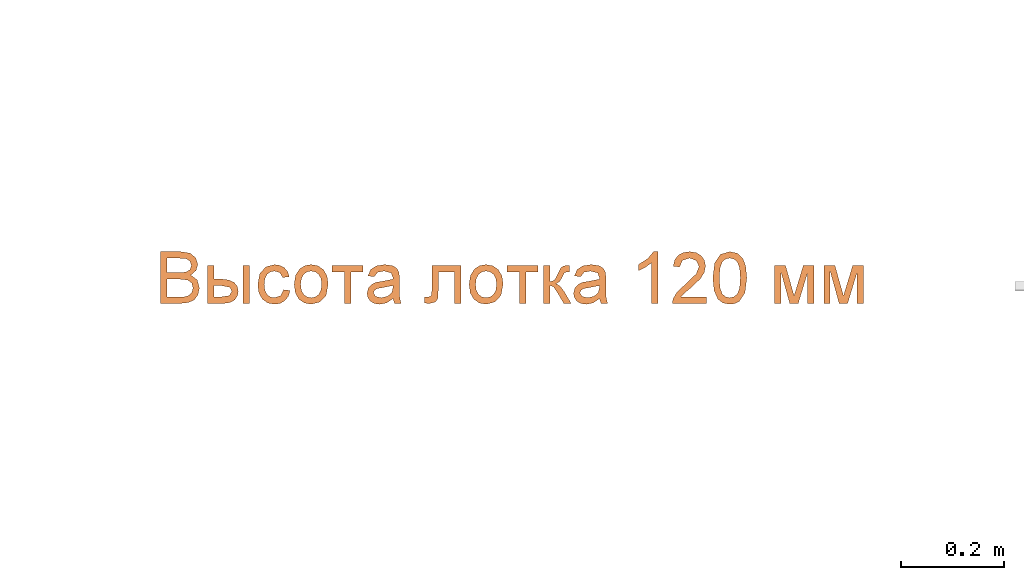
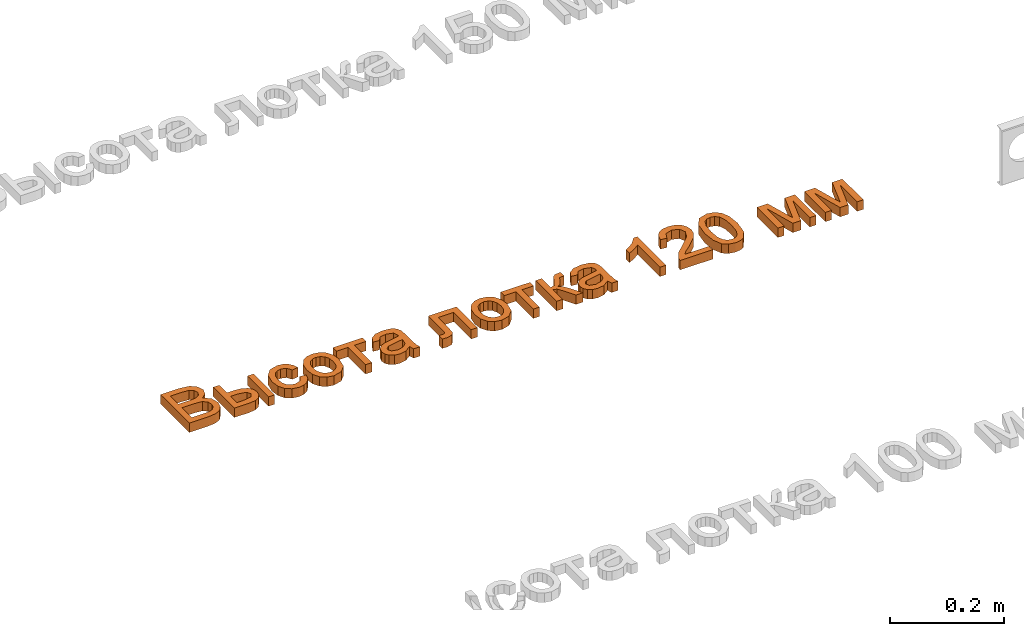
# One storey, part 12 of 71: 1 proxy.
"""IFC2X3 building model written with IfcOpenShell, lengths in millimetres."""

from ifc_helpers import new_model, entity, si_unit, converted_unit, derived_unit, direction, frame, frame_2d, origin, place, context, subcontext, project, spatial, polyline, rectangle, outline, extrude, element, save


model = new_model("IFC2X3")

# Units and contexts
model_context = context("Model", 3, precision=0.01, world=origin(), true_north=direction((6.12303176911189e-17, 1.0)))
body_context = subcontext(model_context, "Body", "Model", "MODEL_VIEW")
ifc_project = project(units=[si_unit("LENGTHUNIT", "METRE", prefix="MILLI"), si_unit("AREAUNIT", "SQUARE_METRE"), si_unit("VOLUMEUNIT", "CUBIC_METRE"), converted_unit("PLANEANGLEUNIT", "DEGREE", entity("IfcRatioMeasure", 0.0174532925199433), si_unit("PLANEANGLEUNIT", "RADIAN"), dimensions=[0, 0, 0, 0, 0, 0, 0]), si_unit("MASSUNIT", "GRAM", prefix="KILO"), derived_unit("MASSDENSITYUNIT", [(si_unit("MASSUNIT", "GRAM", prefix="KILO"), 1), (si_unit("LENGTHUNIT", "METRE"), -3)]), si_unit("TIMEUNIT", "SECOND"), si_unit("FREQUENCYUNIT", "HERTZ"), si_unit("THERMODYNAMICTEMPERATUREUNIT", "DEGREE_CELSIUS"), derived_unit("THERMALTRANSMITTANCEUNIT", [(si_unit("MASSUNIT", "GRAM", prefix="KILO"), 1), (si_unit("THERMODYNAMICTEMPERATUREUNIT", "KELVIN"), -1), (si_unit("TIMEUNIT", "SECOND"), -3)]), derived_unit("VOLUMETRICFLOWRATEUNIT", [(si_unit("LENGTHUNIT", "METRE"), 3), (si_unit("TIMEUNIT", "SECOND"), -1)]), si_unit("ELECTRICCURRENTUNIT", "AMPERE"), si_unit("ELECTRICVOLTAGEUNIT", "VOLT"), si_unit("POWERUNIT", "WATT"), si_unit("FORCEUNIT", "NEWTON", prefix="KILO"), si_unit("ILLUMINANCEUNIT", "LUX"), si_unit("LUMINOUSFLUXUNIT", "LUMEN"), si_unit("LUMINOUSINTENSITYUNIT", "CANDELA"), derived_unit("USERDEFINED", [(si_unit("MASSUNIT", "GRAM", prefix="KILO"), -1), (si_unit("LENGTHUNIT", "METRE"), -2), (si_unit("TIMEUNIT", "SECOND"), 3), (si_unit("LUMINOUSFLUXUNIT", "LUMEN"), 1)]), derived_unit("LINEARVELOCITYUNIT", [(si_unit("LENGTHUNIT", "METRE"), 1), (si_unit("TIMEUNIT", "SECOND"), -1)]), si_unit("PRESSUREUNIT", "PASCAL"), derived_unit("USERDEFINED", [(si_unit("LENGTHUNIT", "METRE"), -2), (si_unit("MASSUNIT", "GRAM", prefix="KILO"), 1), (si_unit("TIMEUNIT", "SECOND"), -2)])], contexts=[model_context])

# Site, building, storey
site_placement = place(None, origin())
site = spatial("IfcSite", under=ifc_project, at=site_placement, Name="Default", CompositionType="ELEMENT")
building_placement = place(site_placement, origin())
building = spatial("IfcBuilding", under=site, at=building_placement, Name="Наименование здания", CompositionType="ELEMENT")
storey_placement = place(building_placement, origin())
storey = spatial("IfcBuildingStorey", under=building, at=storey_placement, Name="Этаж 01", CompositionType="ELEMENT", Elevation=0.0)

# Proxy
proxy_placement = place(storey_placement, origin())
element("IfcBuildingElementProxy", 1, at=proxy_placement, inside=storey, Name="Текст модели:100 мм Arial", ObjectType="Текст модели:100 мм Arial", context=body_context, shape_type="SweptSolid", body=[
    extrude(outline(polyline([(-52.8068326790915, -48.6909338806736), (-14.7678343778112, -48.6909338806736), (1.33313427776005, -46.9618885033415), (12.2592295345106, -41.860591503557), (19.5800812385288, -32.2466086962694), (22.5353999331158, -18.7453394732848), (18.2066551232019, -3.12261741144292), (5.83355735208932, 6.24611073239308), (16.0238886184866, 15.1365922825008), (19.3961402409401, 26.8720279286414), (15.3862264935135, 39.7233722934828), (4.30071570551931, 48.810057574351), (-14.4735287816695, 51.7653762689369), (-52.8068326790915, 51.7653762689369), (-52.8068326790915, -48.6909338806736)]), holes=[polyline([(-40.2497939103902, 10.9550002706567), (-40.2497939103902, 39.208337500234), (-19.0597909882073, 39.208337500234), (-2.92203413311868, 37.8962250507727), (4.31297843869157, 33.0524454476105), (6.83910147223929, 24.8609396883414), (4.12903744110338, 16.6816966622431), (-3.92757825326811, 12.0341207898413), (-17.3184828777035, 10.9550002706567), (-40.2497939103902, 10.9550002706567)]), polyline([(-40.2497939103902, -36.1338951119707), (-40.2497939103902, -1.60203849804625), (-15.7243275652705, -1.60203849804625), (-0.211970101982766, -3.2820329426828), (7.57486546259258, -9.10683119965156), (9.97836116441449, -18.8679668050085), (7.93048472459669, -27.3292526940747), (2.70656039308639, -32.9087962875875), (-5.17837703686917, -35.6433857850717), (-14.4980542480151, -36.1338951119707), (-40.2497939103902, -36.1338951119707)])]), frame((4191.86628439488, -23151.704624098, 0.0)), (0.0, 0.0, 1.0), 20.0),
    extrude(outline(polyline([(-42.3988715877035, -34.5139341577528), (31.3737311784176, -34.5139341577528), (31.3737311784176, -3.73447389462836), (29.6538828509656, 9.31613988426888), (24.4943378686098, 18.2526066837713), (16.9129030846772, 23.4121516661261), (7.92738535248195, 25.1319999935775), (-1.94104916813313, 23.081057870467), (-9.42438208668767, 16.9282315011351), (-14.1424686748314, 6.98622058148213), (-15.7151642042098, -6.43227519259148), (-15.7151642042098, -21.956895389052), (-42.3988715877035, -21.956895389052), (-42.3988715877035, -34.5139341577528)]), holes=[polyline([(18.8166924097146, -21.956895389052), (-3.15812543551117, -21.956895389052), (-3.15812543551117, -7.41329384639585), (0.226388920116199, 8.88387853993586), (7.95191081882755, 12.5749612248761), (16.1802047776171, 7.59629155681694), (18.8166924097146, -9.05650009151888), (18.8166924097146, -21.956895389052)])]), frame((4264.61191694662, -23169.0218268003, 0.0), z_axis=(0.0, 0.0, 1.0), x_axis=(0.0, -1.0, 0.0)), (0.0, 0.0, 1.0), 20.0),
    extrude(outline(polyline([(0.267683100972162, -20.7200562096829), (-4.02278247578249, -32.6253015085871), (7.51957889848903, -34.5647704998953), (18.0242916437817, -32.524098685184), (26.8500141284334, -26.8719753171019), (33.3554047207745, -17.9770896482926), (37.2076783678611, -4.95154901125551), (35.3403176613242, 7.71415747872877), (27.6846262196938, 19.1676933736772), (14.1719076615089, 28.5567222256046), (-6.16200624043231, 34.5864889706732), (-23.4110955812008, 30.2307841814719), (-35.1302422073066, 17.0254849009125), (-38.5714296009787, 6.87231136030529), (-38.3156698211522, -2.77330902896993), (-34.4593562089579, -11.5597521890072), (-27.0988821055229, -19.1353940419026), (-20.0099089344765, -8.6525785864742), (-25.7552259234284, 0.801697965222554), (-23.9806627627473, 11.2483121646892), (-18.9208808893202, 17.7794646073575), (-11.853830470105, 21.4126833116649), (-2.81100512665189, 21.5312059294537), (8.17610151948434, 17.5182701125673), (18.0468481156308, 10.9639331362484), (23.3470531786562, 3.65828147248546), (24.6053297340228, -4.07586677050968), (22.3502908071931, -11.9156934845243), (13.5558525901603, -20.7200562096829), (0.267683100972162, -20.7200562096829)])), frame((4359.29348811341, -23164.084759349, 0.0), z_axis=(0.0, 0.0, -1.0), x_axis=(-0.453109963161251, -0.891454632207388, 0.0)), (0.0, 0.0, -1.0), 20.0),
    extrude(outline(polyline([(-2.34029740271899, -31.6984909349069), (14.2731811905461, -31.6984909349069), (27.1869525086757, -26.5873672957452), (35.9909592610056, -17.1811275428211), (40.275144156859, -4.29577920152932), (38.1491713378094, 13.1690451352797), (27.2514955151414, 26.648536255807), (5.67797919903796, 33.7446283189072), (-10.1280544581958, 33.6081083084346), (-22.8059382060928, 28.3900569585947), (-31.6389568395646, 18.9754531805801), (-35.910395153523, 6.24927588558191), (-35.5406401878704, -5.97109031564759), (-30.8535887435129, -16.7835237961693), (-19.5870121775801, -26.5692340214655), (-2.34029740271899, -31.6984909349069)]), holes=[polyline([(-0.642949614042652, -19.2566729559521), (-11.6948097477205, -16.259966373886), (-19.0989004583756, -10.8341828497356), (-22.9822632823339, -3.67356758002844), (-23.4719397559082, 4.52763423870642), (-20.7783225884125, 12.2046648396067), (-15.0781786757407, 18.0357050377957), (-6.56600936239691, 21.286328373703), (4.5636840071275, 21.2221083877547), (15.8675929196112, 18.1905150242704), (23.3961896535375, 12.747498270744), (27.3267847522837, 5.59272509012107), (27.8366887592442, -2.57413755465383), (25.1317228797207, -10.3331599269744), (19.4311586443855, -16.1672368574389), (10.8134498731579, -19.3753979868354), (-0.642949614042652, -19.2566729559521)])]), frame((4429.76838821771, -23161.4814092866, 0.0), z_axis=(0.0, 0.0, 1.0), x_axis=(0.137105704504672, -0.990556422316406, 0.0)), (0.0, 0.0, 1.0), 20.0),
    extrude(outline(polyline([(-24.7216700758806, -29.8229670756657), (-12.1646313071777, -29.8229670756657), (-12.1646313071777, -6.27851938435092), (49.0509326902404, -6.27851938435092), (49.0509326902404, 6.27851938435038), (-12.1646313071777, 6.27851938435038), (-12.1646313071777, 29.8229670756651), (-24.7216700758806, 29.8229670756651), (-24.7216700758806, -29.8229670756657)])), frame((4501.64394616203, -23151.3446252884, 0.0), z_axis=(0.0, 0.0, 1.0), x_axis=(0.0, -1.0, 0.0)), (0.0, 0.0, 1.0), 20.0),
    extrude(outline(polyline([(32.0508237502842, 7.88266535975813), (41.9780345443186, 7.88266535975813), (45.9489188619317, 19.7953183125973), (35.1414436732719, 20.7608946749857), (14.2438893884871, 27.0545912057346), (-0.577126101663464, 31.9949297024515), (-11.1945882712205, 34.8877809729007), (-20.497470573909, 33.9299602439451), (-28.5323068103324, 27.5470739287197), (-35.4619652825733, 13.8157249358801), (-38.3044049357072, -2.69989645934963), (-34.9462156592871, -15.3493345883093), (-25.030638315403, -24.3807697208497), (-19.5706723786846, -12.9644773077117), (-25.7868125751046, -4.50695904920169), (-24.0611841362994, 8.30922519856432), (-16.2279943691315, 20.3304570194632), (-6.33956174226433, 20.679460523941), (-3.7104020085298, 19.7255176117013), (-6.50243004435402, -2.30048133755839), (-8.14662433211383, -13.2049019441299), (-7.01817966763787, -22.8490321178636), (-2.17478658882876, -31.1204151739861), (6.48825595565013, -36.5416029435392), (15.0010331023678, -37.7020395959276), (22.949587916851, -35.3200906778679), (29.6378522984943, -29.3899394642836), (34.3697581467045, -19.9057692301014), (36.2737661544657, -6.36055543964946), (32.0508237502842, 7.88266535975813)]), holes=[polyline([(8.22551784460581, 15.8244339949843), (11.5759514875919, 14.6300664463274), (20.1614376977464, 9.67421668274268), (24.4696920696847, -0.396473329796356), (23.3024692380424, -13.39879277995), (17.2491973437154, -22.9498553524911), (9.62153186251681, -24.3497471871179), (5.58084684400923, -21.1932043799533), (3.98706417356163, -15.5044472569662), (5.47226797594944, -4.61166010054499), (8.22551784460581, 15.8244339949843)])]), frame((4571.92970417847, -23163.0644153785, 0.0), z_axis=(0.0, 0.0, 1.0), x_axis=(0.316227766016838, -0.948683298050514, 0.0)), (0.0, 0.0, 1.0), 20.0),
    extrude(outline(polyline([(-49.3689973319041, 12.5447760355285), (-49.3689973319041, -43.9618984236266), (24.3300290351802, -43.9618984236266), (24.3300290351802, -31.4048596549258), (-36.8119585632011, -31.4048596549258), (-36.8119585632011, -0.0122627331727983), (-1.61791435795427, -0.0122627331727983), (14.6179443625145, 0.833865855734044), (21.4728122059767, 5.48144172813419), (24.403605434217, 16.4688506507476), (23.7659433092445, 26.6714446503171), (11.8465666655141, 26.6714446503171), (11.8465666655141, 21.0551128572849), (11.0740144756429, 15.3774673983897), (8.62146784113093, 13.1088617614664), (-2.32915288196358, 12.5447760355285), (-49.3689973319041, 12.5447760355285)])), frame((4677.43022619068, -23175.9919525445, 0.0), z_axis=(0.0, 0.0, -1.0), x_axis=(0.0, -1.0, 0.0)), (0.0, 0.0, -1.0), 20.0),
    extrude(outline(polyline([(-2.34029740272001, -31.6984909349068), (14.2731811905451, -31.6984909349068), (27.1869525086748, -26.5873672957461), (35.9909592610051, -17.1811275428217), (40.2751441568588, -4.29577920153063), (38.1491713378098, 13.1690451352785), (27.2514955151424, 26.6485362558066), (5.67797919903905, 33.744628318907), (-10.1280544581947, 33.6081083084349), (-22.8059382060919, 28.3900569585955), (-31.638956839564, 18.9754531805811), (-35.9103951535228, 6.24927588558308), (-35.5406401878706, -5.97109031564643), (-30.8535887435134, -16.7835237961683), (-19.5870121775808, -26.5692340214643), (-2.34029740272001, -31.6984909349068)]), holes=[polyline([(-0.642949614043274, -19.2566729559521), (-11.694809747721, -16.2599663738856), (-19.098900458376, -10.834182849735), (-22.982263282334, -3.6735675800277), (-23.4719397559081, 4.52763423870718), (-20.778322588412, 12.2046648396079), (-15.0781786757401, 18.0357050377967), (-6.56600936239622, 21.2863283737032), (4.56368400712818, 21.2221083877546), (15.8675929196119, 18.1905150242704), (23.396189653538, 12.7474982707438), (27.3267847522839, 5.59272509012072), (27.8366887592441, -2.57413755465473), (25.1317228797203, -10.3331599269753), (19.431158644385, -16.1672368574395), (10.8134498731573, -19.3753979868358), (-0.642949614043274, -19.2566729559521)])]), frame((4768.80843497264, -23161.4814092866, 0.0), z_axis=(0.0, 0.0, 1.0), x_axis=(0.137105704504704, -0.990556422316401, 0.0)), (0.0, 0.0, 1.0), 20.0),
    extrude(outline(polyline([(-24.7216700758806, -29.8229670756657), (-12.1646313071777, -29.8229670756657), (-12.1646313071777, -6.27851938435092), (49.0509326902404, -6.27851938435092), (49.0509326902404, 6.27851938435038), (-12.1646313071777, 6.27851938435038), (-12.1646313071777, 29.8229670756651), (-24.7216700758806, 29.8229670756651), (-24.7216700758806, -29.8229670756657)])), frame((4840.68399291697, -23151.3446252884, 0.0), z_axis=(0.0, 0.0, 1.0), x_axis=(0.0, -1.0, 0.0)), (0.0, 0.0, 1.0), 20.0),
    extrude(outline(polyline([(-30.3295712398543, -29.5353037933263), (43.4430315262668, -29.5353037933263), (43.4430315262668, -16.9782650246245), (8.91117491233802, -16.9782650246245), (11.2288314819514, -10.2337617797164), (20.8060260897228, -3.61188586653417), (43.4430315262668, 9.55828956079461), (43.4430315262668, 23.8321109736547), (20.3155167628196, 10.3921554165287), (10.0209522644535, 2.61758258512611), (5.13425309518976, -5.30414304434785), (0.756457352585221, 1.79597946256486), (-8.18307513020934, 6.86048826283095), (-16.4481572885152, 11.1769703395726), (-17.7725324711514, 17.3083369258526), (-17.6989560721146, 20.6928512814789), (-30.3295712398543, 20.6928512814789), (-30.3295712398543, 18.289355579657), (-29.3730780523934, 9.10456843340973), (-25.6819953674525, 4.05232236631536), (-14.3389671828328, -1.67437402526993), (-1.19331722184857, -8.56603006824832), (1.06302568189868, -16.9782650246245), (-30.3295712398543, -16.9782650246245), (-30.3295712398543, -29.5353037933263)])), frame((4911.02967270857, -23156.9525264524, 0.0), z_axis=(0.0, 0.0, 1.0), x_axis=(0.0, -1.0, 0.0)), (0.0, 0.0, 1.0), 20.0),
    extrude(rectangle(XDim=73.7726027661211, YDim=12.5570387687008, at=frame_2d((2.16715534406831e-12, 0.0), x_axis=(1.0, 0.0))), frame((4305.44021540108, -23163.5092565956, 0.0), z_axis=(0.0, 0.0, 1.0), x_axis=(0.0, -1.0, 0.0)), (0.0, 0.0, 1.0), 20.0),
    extrude(outline(polyline([(32.0508237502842, 7.88266535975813), (41.9780345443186, 7.88266535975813), (45.9489188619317, 19.7953183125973), (35.1414436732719, 20.7608946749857), (14.2438893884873, 27.0545912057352), (-0.577126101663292, 31.994929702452), (-11.1945882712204, 34.8877809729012), (-20.497470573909, 33.9299602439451), (-28.5323068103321, 27.5470739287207), (-35.4619652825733, 13.8157249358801), (-38.3044049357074, -2.69989645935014), (-34.9462156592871, -15.3493345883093), (-25.0306383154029, -24.3807697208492), (-19.5706723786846, -12.9644773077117), (-25.7868125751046, -4.50695904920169), (-24.0611841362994, 8.30922519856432), (-16.2279943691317, 20.3304570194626), (-6.33956174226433, 20.679460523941), (-3.71040200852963, 19.7255176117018), (-6.50243004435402, -2.30048133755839), (-8.14662433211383, -13.2049019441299), (-7.01817966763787, -22.8490321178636), (-2.17478658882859, -31.1204151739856), (6.48825595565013, -36.5416029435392), (15.0010331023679, -37.7020395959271), (22.9495879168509, -35.3200906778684), (29.6378522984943, -29.3899394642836), (34.3697581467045, -19.9057692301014), (36.2737661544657, -6.36055543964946), (32.0508237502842, 7.88266535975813)]), holes=[polyline([(8.22551784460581, 15.8244339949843), (11.5759514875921, 14.6300664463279), (20.1614376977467, 9.67421668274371), (24.4696920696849, -0.396473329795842), (23.3024692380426, -13.3987927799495), (17.2491973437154, -22.9498553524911), (9.62153186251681, -24.3497471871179), (5.58084684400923, -21.1932043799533), (3.98706417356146, -15.5044472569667), (5.47226797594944, -4.61166010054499), (8.22551784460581, 15.8244339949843)])]), frame((4972.18531493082, -23163.0644153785, 0.0), z_axis=(0.0, 0.0, 1.0), x_axis=(0.316227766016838, -0.948683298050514, 0.0)), (0.0, 0.0, 1.0), 20.0),
    extrude(outline(polyline([(-63.8793021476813, -16.918484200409), (36.5770080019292, -16.918484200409), (36.5770080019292, -8.82508030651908), (23.2106288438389, 2.34626961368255), (11.4629304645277, 20.7526321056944), (-0.407395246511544, 20.7526321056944), (5.93243780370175, 7.53340574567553), (14.4059864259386, -4.36144543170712), (-63.8793021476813, -4.36144543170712), (-63.8793021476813, -16.918484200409)])), frame((5085.89369301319, -23136.516255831, 0.0), z_axis=(0.0, 0.0, 1.0), x_axis=(0.0, 1.0, 0.0)), (0.0, 0.0, 1.0), 20.0),
    extrude(outline(polyline([(-32.3858783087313, -45.1669477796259), (-32.3858783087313, -57.7239865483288), (33.5385752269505, -57.7239865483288), (32.1896745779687, -49.0664969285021), (24.5622545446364, -35.736905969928), (8.84143061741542, -21.1810416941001), (-12.8390816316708, -0.260818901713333), (-18.2592096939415, 13.9639515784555), (-13.1456499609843, 25.4786580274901), (0.20846646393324, 30.1752848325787), (14.1266686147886, 25.5890226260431), (19.4119066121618, 12.9093565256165), (31.9689453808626, 14.4789863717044), (28.9247218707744, 26.6252235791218), (22.3426998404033, 35.4973110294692), (12.5662358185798, 40.9235704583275), (-0.0613136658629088, 42.7323236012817), (-12.7808336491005, 40.7212353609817), (-22.5389035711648, 34.6879706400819), (-28.7469122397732, 25.6748617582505), (-30.8162484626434, 14.724241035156), (-28.5844310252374, 2.81712712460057), (-21.1654774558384, -9.49465698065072), (-3.17604789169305, -26.6992716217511), (11.2694517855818, -38.7780637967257), (16.9348345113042, -45.1669477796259), (-32.3858783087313, -45.1669477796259)])), frame((5164.60408967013, -23142.6715714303, 0.0), z_axis=(0.0, 0.0, -1.0), x_axis=(-1.0, 0.0, 0.0)), (0.0, 0.0, -1.0), 20.0),
    extrude(outline(polyline([(-7.0288431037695, -33.3490673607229), (17.5323805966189, -33.3490673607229), (35.1984171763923, -27.6137612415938), (43.3439841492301, -18.4876517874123), (47.0516941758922, -5.75150665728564), (46.7162020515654, 4.48638208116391), (43.4465778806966, 13.0955287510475), (27.9444305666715, 25.6659118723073), (-0.31433837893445, 32.2325535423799), (-24.0296505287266, 32.3678288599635), (-39.4143020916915, 28.0260881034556), (-49.7293680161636, 18.9002174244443), (-54.4436715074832, 4.63998875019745), (-50.8676582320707, -14.1301059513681), (-35.4058547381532, -26.7333390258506), (-7.0288431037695, -33.3490673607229)]), holes=[polyline([(-5.77428774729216, -20.8548320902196), (-25.0157644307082, -17.356286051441), (-36.7257089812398, -11.5717922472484), (-41.0962588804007, -4.77599682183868), (-41.9669219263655, 3.21464792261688), (-39.2244253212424, 11.2791292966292), (-32.8654063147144, 17.2229259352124), (-20.9698370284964, 20.294750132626), (-1.61768958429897, 19.7433141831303), (17.8514140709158, 16.2707701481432), (28.7803640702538, 10.714159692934), (33.5546988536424, 3.61815959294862), (34.5599568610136, -4.47255337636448), (31.9421230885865, -12.1923199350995), (25.8471825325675, -18.1754808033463), (14.025067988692, -21.402747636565), (-5.77428774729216, -20.8548320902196)])]), frame((5243.438544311, -23154.5723810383, 0.0), z_axis=(0.0, 0.0, 1.0), x_axis=(0.101851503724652, -0.994799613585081, 0.0)), (0.0, 0.0, 1.0), 20.0),
    extrude(outline(polyline([(-40.5839870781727, -38.4502715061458), (33.1886156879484, -38.4502715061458), (33.1886156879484, -25.893232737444), (-29.0570178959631, -25.893232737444), (33.1886156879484, -8.62730443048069), (33.1886156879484, 7.85380895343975), (-26.2120637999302, 25.904552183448), (33.1886156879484, 25.904552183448), (33.1886156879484, 38.4615909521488), (-40.5839870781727, 38.4615909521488), (-40.5839870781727, 17.7620973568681), (18.4733358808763, -0.190544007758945), (-40.5839870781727, -16.8433356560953), (-40.5839870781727, -38.4502715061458)])), frame((5367.28914655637, -23167.2069422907, 0.0), z_axis=(0.0, 0.0, 1.0), x_axis=(0.0, -1.0, 0.0)), (0.0, 0.0, 1.0), 20.0),
    extrude(outline(polyline([(-40.5839870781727, -38.4502715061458), (33.1886156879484, -38.4502715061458), (33.1886156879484, -25.8932327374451), (-29.0570178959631, -25.8932327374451), (33.1886156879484, -8.62730443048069), (33.1886156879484, 7.85380895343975), (-26.2120637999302, 25.904552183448), (33.1886156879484, 25.904552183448), (33.1886156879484, 38.4615909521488), (-40.5839870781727, 38.4615909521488), (-40.5839870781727, 17.7620973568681), (18.4733358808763, -0.190544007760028), (-40.5839870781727, -16.8433356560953), (-40.5839870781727, -38.4502715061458)])), frame((5463.03656716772, -23167.2069422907, 0.0), z_axis=(0.0, 0.0, 1.0), x_axis=(0.0, -1.0, 0.0)), (0.0, 0.0, 1.0), 20.0),
])

save(model, "model.ifc")
